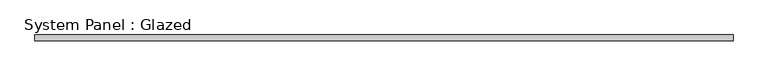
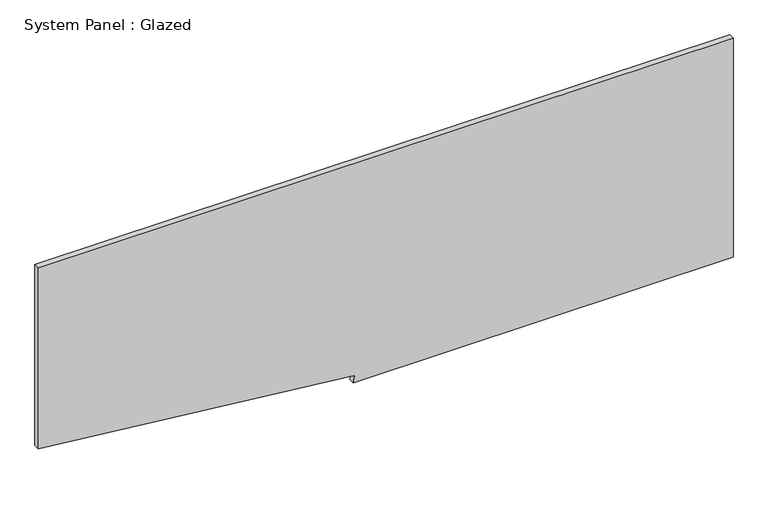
"""IFC4 building model written with IfcOpenShell, lengths in millimetres: plate geometry, System Panel : Glazed."""

from ifc_helpers import new_model, si_unit, frame, origin, place, context, project, spatial, polyline, outline, extrude, source, transform, mapped, element, save


def system_panel_glazed_4dfac3d5(model_context):
    return source(origin(), model_context, "Body", "SweptSolid", [
        extrude(outline(polyline([(0.0, -140.1033108), (0.0, 1504.95), (1003.3, 1504.95), (1003.3, -1504.95), (175.9437045, -1504.95), (31.4002578, -133.4478666), (0.0, -140.1033108)])), frame((0.0, 19.05, 0.0), z_axis=(0.0, 1.0, 0.0), x_axis=(0.0, 0.0, 1.0)), (0.0, 0.0, 1.0), 25.4),
    ])


if __name__ == "__main__":
    model = new_model("IFC4")
    model_context = context("Model", 3, world=origin())
    ifc_project = project(units=[si_unit("LENGTHUNIT", "METRE", prefix="MILLI")], contexts=[model_context])
    site = spatial("IfcSite", under=ifc_project)
    building = spatial("IfcBuilding", under=site)
    placement = place(None, origin())
    system_panel_glazed_shape = system_panel_glazed_4dfac3d5(model_context)
    element("IfcPlate", 1, ObjectType="System Panel : Glazed", at=placement, inside=building, context=model_context, shape_type="MappedRepresentation", body=[
        mapped(system_panel_glazed_shape, transform((0.0, 0.0, 0.0), x_axis=(1.0, 0.0, 0.0), y_axis=(0.0, 1.0, 0.0), z_axis=(0.0, 0.0, 1.0))),
    ])
    save(model, "model.ifc")
